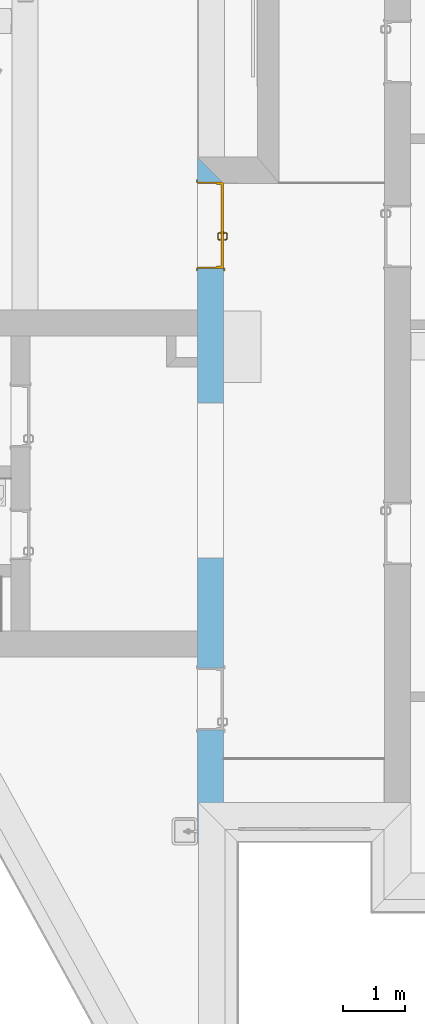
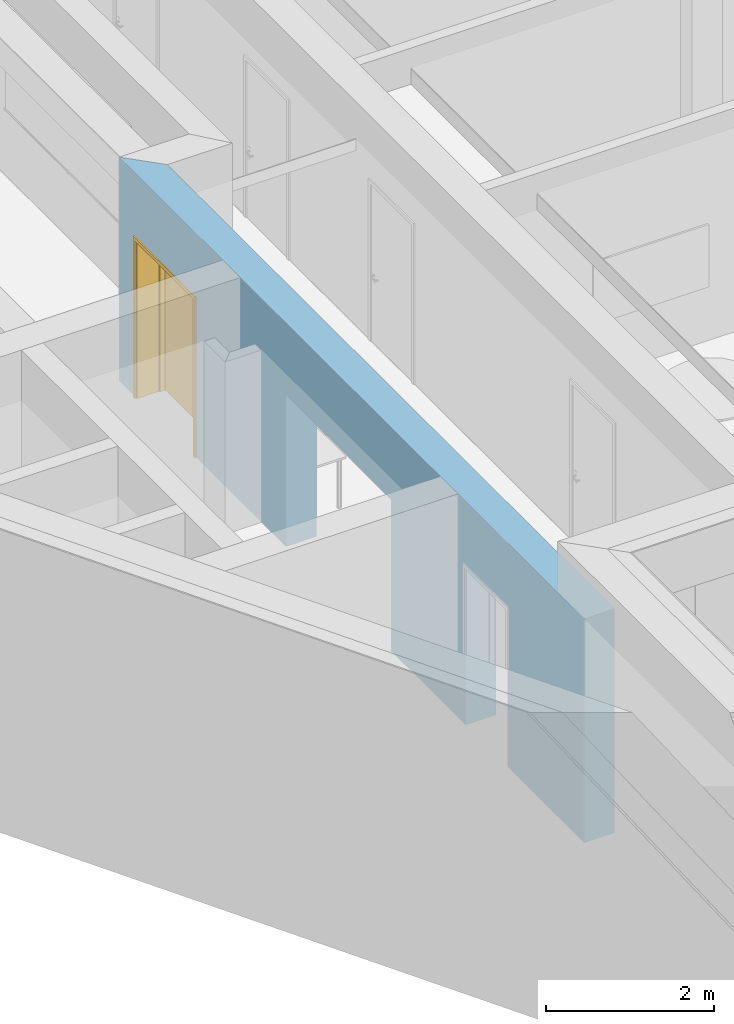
# One storey, part 50 of 194: 1 door, 3 openings, plus 1 element that does not belong to this part.
"""IFC2X3 building model written with IfcOpenShell, lengths in millimetres."""

import ifcopenshell
import ifcopenshell.guid

model = None  # the IFC model being written
_history = None  # IfcOwnerHistory: only IFC2X3 demands one
_inside = {}  # id of a spatial element -> (the spatial element, [elements in it])
_under = {}  # id of a project, library or spatial element -> (it, [spatial elements below it])
_declared = {}  # id of a project -> (the project, [libraries it declares])
_typed = {}  # id of a type object -> (the type object, [elements of that type])
_made_of = {}  # id of a material, layer set ... -> (it, [elements and type objects made of it])


def new_model(schema):
    """Start an empty IFC model of exactly this schema.

    Asked for "IFC4X3", IfcOpenShell would pick the latest addendum, in which some entities
    have other attributes; the version numbers below select the first issue.
    IFC2X3 requires an IfcOwnerHistory on every rooted entity: one is made here for all.
    """
    global model, _history
    if schema == "IFC4X3":
        model = ifcopenshell.file(schema_version=(4, 3, 0, 0))
    else:
        model = ifcopenshell.file(schema=schema)
    _inside.clear()
    _under.clear()
    _declared.clear()
    _typed.clear()
    _made_of.clear()
    _history = None
    if model.schema == "IFC2X3":
        org = make("IfcOrganization", Name="unknown")
        user = make(
            "IfcPersonAndOrganization",
            ThePerson=make("IfcPerson", FamilyName="unknown"),
            TheOrganization=org,
        )
        app = make(
            "IfcApplication",
            ApplicationDeveloper=org,
            Version="unknown",
            ApplicationFullName="unknown",
            ApplicationIdentifier="unknown",
        )
        _history = make(
            "IfcOwnerHistory",
            OwningUser=user,
            OwningApplication=app,
            ChangeAction="ADDED",
            CreationDate=0,
        )
    return model


def make(cls, **values):
    """One entity of the class cls with the attributes given. An attribute that is None is left unset."""
    return model.create_entity(
        cls, **{name: value for name, value in values.items() if value is not None}
    )


def entity(cls, *values):
    """Any entity or typed value of the class cls, its attributes in the order of the schema. None: left unset."""
    e = model.create_entity(cls)
    for i, value in enumerate(values):
        if value is not None:
            e[i] = value
    return e


def rooted(cls, **values):
    """An entity with a GlobalId (a new one), such as an element, a storey or a relation."""
    return make(cls, GlobalId=ifcopenshell.guid.new(), OwnerHistory=_history, **values)


def si_unit(unit_type, name, prefix=None):
    """IfcSIUnit, for example si_unit("LENGTHUNIT", "METRE", prefix="MILLI")."""
    return make("IfcSIUnit", UnitType=unit_type, Prefix=prefix, Name=name)


def converted_unit(unit_type, name, factor, base, dimensions=None, offset=None):
    """IfcConversionBasedUnit, such as the inch: factor (a typed value) times the base unit."""
    return make(
        "IfcConversionBasedUnit"
        if offset is None
        else "IfcConversionBasedUnitWithOffset",
        ConversionOffset=offset,
        Dimensions=None
        if dimensions is None
        else entity("IfcDimensionalExponents", *dimensions),
        UnitType=unit_type,
        Name=name,
        ConversionFactor=make(
            "IfcMeasureWithUnit", ValueComponent=factor, UnitComponent=base
        ),
    )


def derived_unit(unit_type, elements):
    """IfcDerivedUnit: a product of units, each with its exponent."""
    return make(
        "IfcDerivedUnit",
        Elements=[
            make("IfcDerivedUnitElement", Unit=unit, Exponent=power)
            for unit, power in elements
        ],
        UnitType=unit_type,
    )


def money_unit(currency):
    """IfcMonetaryUnit."""
    return make("IfcMonetaryUnit", Currency=currency)


def assignment(units):
    """IfcUnitAssignment: the units of a project."""
    return None if units is None else make("IfcUnitAssignment", Units=units)


def point(xyz):
    """IfcCartesianPoint."""
    return None if xyz is None else make("IfcCartesianPoint", Coordinates=xyz)


def direction(xyz):
    """IfcDirection."""
    return None if xyz is None else make("IfcDirection", DirectionRatios=xyz)


def frame(location, z_axis=None, x_axis=None):
    """IfcAxis2Placement3D, a coordinate frame: its origin and axes. An axis left out is left unset."""
    return make(
        "IfcAxis2Placement3D",
        Location=point(location),
        Axis=direction(z_axis),
        RefDirection=direction(x_axis),
    )


def frame_2d(location, x_axis=None):
    """IfcAxis2Placement2D, a coordinate frame in the plane: its origin and x axis."""
    return make(
        "IfcAxis2Placement2D", Location=point(location), RefDirection=direction(x_axis)
    )


def origin_with_axes():
    """The frame at (0, 0, 0) with the z axis (0, 0, 1) and the x axis (1, 0, 0) written out."""
    return frame((0.0, 0.0, 0.0), z_axis=(0.0, 0.0, 1.0), x_axis=(1.0, 0.0, 0.0))


def origin_2d_with_axis():
    """The frame at (0, 0) in the plane with the x axis (1, 0) written out."""
    return frame_2d((0.0, 0.0), x_axis=(1.0, 0.0))


def place(relative_to, where):
    """IfcLocalPlacement: puts the frame where relative to a parent placement (None: the world)."""
    return make(
        "IfcLocalPlacement", PlacementRelTo=relative_to, RelativePlacement=where
    )


def context(
    kind, dimensions, precision=None, world=None, true_north=None, identifier=None
):
    """IfcGeometricRepresentationContext, for example the 3D "Model" context."""
    return make(
        "IfcGeometricRepresentationContext",
        ContextIdentifier=identifier,
        ContextType=kind,
        CoordinateSpaceDimension=dimensions,
        Precision=precision,
        WorldCoordinateSystem=world,
        TrueNorth=true_north,
    )


def subcontext(parent, identifier, kind, view, scale=None):
    """IfcGeometricRepresentationSubContext, for example "Body" below "Model"."""
    return make(
        "IfcGeometricRepresentationSubContext",
        ContextIdentifier=identifier,
        ContextType=kind,
        ParentContext=parent,
        TargetScale=scale,
        TargetView=view,
    )


def project(units=None, contexts=None):
    """IfcProject with its units and contexts."""
    return rooted(
        "IfcProject",
        Name="project",
        RepresentationContexts=contexts,
        UnitsInContext=assignment(units),
    )


def spatial(cls, under=None, at=None, **own):
    """A site, building, storey or space (cls), placed at a placement, below another one or the project."""
    s = rooted(cls, ObjectPlacement=at, **own)
    if under is not None:
        _under.setdefault(under.id(), (under, []))[1].append(s)
    return s


def polyline(points):
    """IfcPolyline through the points."""
    return make("IfcPolyline", Points=[point(p) for p in points])


def profile(cls, at=None, kind="AREA", **sizes):
    """A parametric profile (cls). Its sizes go by their IFC names, for example OverallWidth=200.0."""
    return make(cls, ProfileType=kind, Position=at, **sizes)


def rectangle(**sizes):
    """IfcRectangleProfileDef."""
    return profile("IfcRectangleProfileDef", **sizes)


def outline(outer, holes=None, kind="AREA"):
    """IfcArbitraryClosedProfileDef: a profile drawn as a closed curve; with holes, ...WithVoids."""
    if holes is None:
        return make("IfcArbitraryClosedProfileDef", ProfileType=kind, OuterCurve=outer)
    return make(
        "IfcArbitraryProfileDefWithVoids",
        ProfileType=kind,
        OuterCurve=outer,
        InnerCurves=holes,
    )


def extrude(swept, where, along, depth):
    """IfcExtrudedAreaSolid: the profile swept, set in the frame where, extruded along a direction by depth."""
    return make(
        "IfcExtrudedAreaSolid",
        SweptArea=swept,
        Position=where,
        ExtrudedDirection=direction(along),
        Depth=depth,
    )


def faces_of(points, faces, orient=None, outer=None):
    """IfcFace entities. A face is a list of loops; a loop is a list of indices into points, from 0.

    orient and outer hold one flag for each loop. By default every Orientation is true, the
    first loop of a face is its IfcFaceOuterBound and the others are IfcFaceBound.
    """
    made = []
    for i, loops in enumerate(faces):
        bounds = []
        for j, loop in enumerate(loops):
            is_outer = j == 0 if outer is None else outer[i][j]
            bounds.append(
                make(
                    "IfcFaceOuterBound" if is_outer else "IfcFaceBound",
                    Bound=make("IfcPolyLoop", Polygon=[points[k] for k in loop]),
                    Orientation=True if orient is None else orient[i][j],
                )
            )
        made.append(make("IfcFace", Bounds=bounds))
    return made


def open_shell(faces, orient=None, outer=None):
    """The faces of one IfcOpenShell. surface_model builds it on its shared points."""
    return ("IfcOpenShell", faces, orient, outer)


def faceted_brep(points, faces, orient=None, outer=None, voids=None):
    """IfcFacetedBrep: a solid bounded by flat faces; with voids (closed shells), ...WithVoids."""
    shared = [point(p) for p in points]
    hull = make("IfcClosedShell", CfsFaces=faces_of(shared, faces, orient, outer))
    if voids is None:
        return make("IfcFacetedBrep", Outer=hull)
    return make(
        "IfcFacetedBrepWithVoids",
        Outer=hull,
        Voids=[
            make(cls, CfsFaces=faces_of(shared, fs, o, b)) for cls, fs, o, b in voids
        ],
    )


def surface_model(cls, points, shells):
    """IfcFaceBasedSurfaceModel or IfcShellBasedSurfaceModel (cls): surfaces that need not close."""
    shared = [point(p) for p in points]
    made = [make(c, CfsFaces=faces_of(shared, fs, o, b)) for c, fs, o, b in shells]
    if cls == "IfcFaceBasedSurfaceModel":
        return make(cls, FbsmFaces=made)
    return make(cls, SbsmBoundary=made)


def shape(context_of_items, identifier, shape_type, items):
    """IfcShapeRepresentation: the items that make up one representation, for example the "Body"."""
    return make(
        "IfcShapeRepresentation",
        ContextOfItems=context_of_items,
        RepresentationIdentifier=identifier,
        RepresentationType=shape_type,
        Items=items,
    )


def material(Name=None, Category=None):
    """IfcMaterial."""
    return make("IfcMaterial", Name=Name, Category=Category)


def layer(
    of_material, thickness, ventilated=None, Name=None, Category=None, Priority=None
):
    """IfcMaterialLayer: one layer of a wall or slab, of a material (None: an air gap)."""
    return make(
        "IfcMaterialLayer",
        Material=of_material,
        LayerThickness=thickness,
        IsVentilated=ventilated,
        Name=Name,
        Category=Category,
        Priority=Priority,
    )


def layer_set(layers, Name=None):
    """IfcMaterialLayerSet."""
    return make("IfcMaterialLayerSet", MaterialLayers=layers, LayerSetName=Name)


def layer_usage(for_layer_set, set_direction, sense, offset, extent=None):
    """IfcMaterialLayerSetUsage: how a layer set lies in its element."""
    return make(
        "IfcMaterialLayerSetUsage",
        ForLayerSet=for_layer_set,
        LayerSetDirection=set_direction,
        DirectionSense=sense,
        OffsetFromReferenceLine=offset,
        ReferenceExtent=extent,
    )


def made_of(thing, what):
    """Note that an element or type object is made of a material, layer set ...; save() writes the relation."""
    if what is not None:
        _made_of.setdefault(what.id(), (what, []))[1].append(thing)
    return thing


def type_object(cls, material=None, **own):
    """A type object (cls), such as IfcWallType, which elements share."""
    return made_of(rooted(cls, **own), material)


def element(
    cls,
    number,
    at=None,
    inside=None,
    cuts=None,
    type_object=None,
    material=None,
    context=None,
    identifier="Body",
    shape_type=None,
    held_by="IfcProductDefinitionShape",
    body=None,
    shapes=None,
    **own,
):
    """One element of the class cls, such as IfcWall. Its Tag is "e" and its number.

    at: its placement. inside: the storey or other place that contains it. cuts: it is an
    opening in that element (IfcRelVoidsElement). A single representation is given by context,
    identifier, shape_type and body (its items); several are given by shapes. held_by: the class
    of the entity that holds the representations. save() writes the other relations.
    """
    e = rooted(cls, Tag="e%d" % number, ObjectPlacement=at, **own)
    if body is not None:
        shapes = [shape(context, identifier, shape_type, body)]
    if shapes is not None:
        e.Representation = make(held_by, Representations=shapes)
    if inside is not None:
        _inside.setdefault(inside.id(), (inside, []))[1].append(e)
    if cuts is not None:
        rooted(
            "IfcRelVoidsElement", RelatingBuildingElement=cuts, RelatedOpeningElement=e
        )
    if type_object is not None:
        _typed.setdefault(type_object.id(), (type_object, []))[1].append(e)
    return made_of(e, material)


def fill(opening, filler):
    """IfcRelFillsElement: the door or window that sits in an opening."""
    return rooted(
        "IfcRelFillsElement",
        RelatingOpeningElement=opening,
        RelatedBuildingElement=filler,
    )


def aggregate(whole, parts):
    """IfcRelAggregates: a whole, such as a stair, and the parts it consists of."""
    return rooted("IfcRelAggregates", RelatingObject=whole, RelatedObjects=parts)


def save(model, path):
    """Write the relations noted so far, then the file.

    IfcRelAggregates (storeys below a building ...), IfcRelContainedInSpatialStructure (elements
    in a storey), IfcRelDefinesByType, IfcRelAssociatesMaterial and IfcRelDeclares: one each for
    every whole, place, type object, material and project.
    """
    for whole, parts in _under.values():
        aggregate(whole, parts)
    for where, things in _inside.values():
        rooted(
            "IfcRelContainedInSpatialStructure",
            RelatedElements=things,
            RelatingStructure=where,
        )
    for kind, things in _typed.values():
        rooted("IfcRelDefinesByType", RelatedObjects=things, RelatingType=kind)
    for what, things in _made_of.values():
        rooted("IfcRelAssociatesMaterial", RelatedObjects=things, RelatingMaterial=what)
    for by, libraries in _declared.values():
        rooted("IfcRelDeclares", RelatingContext=by, RelatedDefinitions=libraries)
    model.write(path)


model = new_model("IFC2X3")

# Units and contexts
model_context = context("Model", 3, precision=1e-05, world=origin_with_axes(), true_north=direction((0.0, 1.0)))
body_context = subcontext(model_context, "Body", "Model", "MODEL_VIEW")
ifc_project = project(units=[si_unit("LENGTHUNIT", "METRE", prefix="MILLI"), si_unit("AREAUNIT", "SQUARE_METRE"), si_unit("VOLUMEUNIT", "CUBIC_METRE"), converted_unit("PLANEANGLEUNIT", "DEGREE", entity("IfcPlaneAngleMeasure", 0.0174532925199), si_unit("PLANEANGLEUNIT", "RADIAN"), dimensions=[0, 0, 0, 0, 0, 0, 0]), si_unit("SOLIDANGLEUNIT", "STERADIAN"), money_unit("EUR"), converted_unit("TIMEUNIT", "Year", entity("IfcTimeMeasure", 31556926.0), si_unit("TIMEUNIT", "SECOND"), dimensions=[0, 0, 1, 0, 0, 0, 0]), si_unit("MASSUNIT", "GRAM", prefix="KILO"), si_unit("THERMODYNAMICTEMPERATUREUNIT", "DEGREE_CELSIUS"), si_unit("LUMINOUSINTENSITYUNIT", "LUMEN"), si_unit("ENERGYUNIT", "JOULE", prefix="MEGA"), derived_unit("THERMALCONDUCTANCEUNIT", [(si_unit("POWERUNIT", "WATT"), 1), (si_unit("LENGTHUNIT", "METRE"), -1), (si_unit("THERMODYNAMICTEMPERATUREUNIT", "KELVIN"), -1)]), derived_unit("SPECIFICHEATCAPACITYUNIT", [(si_unit("ENERGYUNIT", "JOULE"), 1), (si_unit("MASSUNIT", "GRAM", prefix="KILO"), -1), (si_unit("THERMODYNAMICTEMPERATUREUNIT", "KELVIN"), -1)]), derived_unit("MASSDENSITYUNIT", [(si_unit("MASSUNIT", "GRAM", prefix="KILO"), 1), (si_unit("VOLUMEUNIT", "CUBIC_METRE"), -1)])], contexts=[model_context])

# Site, building, storey
site_placement = place(None, origin_with_axes())
site = spatial("IfcSite", under=ifc_project, at=site_placement, Name="Site", CompositionType="ELEMENT")
building_placement = place(site_placement, origin_with_axes())
building = spatial("IfcBuilding", under=site, at=building_placement, Name="Building", CompositionType="ELEMENT")
storey_placement = place(building_placement, frame((0.0, 0.0, 3000.0), z_axis=(0.0, 0.0, 1.0), x_axis=(1.0, 0.0, 0.0)))
storey = spatial("IfcBuildingStorey", under=building, at=storey_placement, Name="2 KORRUS", CompositionType="ELEMENT", Elevation=3000.0)

# Wall, openings, door
ifc_material = material(Name="Kivi -Ol.Olev Konstruktsioon")
ifc_layer = layer(ifc_material, 420.0, ventilated="UNKNOWN")
ifc_layer_set = layer_set([ifc_layer], Name="ol.olev ss 420")
ifc_layer_usage = layer_usage(ifc_layer_set, "AXIS2", "POSITIVE", 0.0)
wall_type = type_object("IfcWallType", Name="SW - 023", PredefinedType="NOTDEFINED")
wall_placement = place(storey_placement, frame((37144.8833089, 5307.76650233, 0.0), z_axis=(0.0, 0.0, 1.0), x_axis=(0.0, 1.0, 0.0)))
wall = element("IfcWallStandardCase", 1, at=wall_placement, inside=storey, type_object=wall_type, material=ifc_layer_usage, Name="ol.olev ss 420", context=body_context, shape_type="SweptSolid", body=[
    extrude(outline(polyline([(0.0, 0.0), (10639.2321856, 0.0), (11059.9335517, 420.0), (0.0, 420.0), (0.0, 0.0)])), origin_with_axes(), (0.0, 0.0, 1.0), 3250.0),
])
opening_1_placement = place(wall_placement, frame((2319.67010377, 0.0, 0.0), z_axis=(0.0, 0.0, 1.0), x_axis=(1.0, 0.0, 0.0)))
element("IfcOpeningElement", 2, at=opening_1_placement, cuts=wall, Name="Siseuks * Door 22", context=body_context, shape_type="SweptSolid", body=[
    extrude(rectangle(XDim=1000.0, YDim=2300.0, at=origin_2d_with_axis()), frame((0.0, 420.0, 1150.0), z_axis=(0.0, 1.0, 0.0), x_axis=(1.0, 0.0, 0.0)), (0.0, 0.0, -1.0), 1260.0),
    extrude(rectangle(XDim=1074.0, YDim=2337.0, at=origin_2d_with_axis()), frame((0.0, 420.0, 1168.5), z_axis=(0.0, 1.0, 0.0), x_axis=(1.0, 0.0, 0.0)), (0.0, 0.0, 1.0), 420.0),
    extrude(rectangle(XDim=1074.0, YDim=2337.0, at=origin_2d_with_axis()), frame((0.0, 0.0, 1168.5), z_axis=(0.0, -1.0, 0.0), x_axis=(1.0, 0.0, 0.0)), (0.0, 0.0, 1.0), 420.0),
])
opening_2_placement = place(wall_placement, frame((9960.45850572, 0.0, 0.0), z_axis=(0.0, 0.0, 1.0), x_axis=(1.0, 0.0, 0.0)))
opening_2 = element("IfcOpeningElement", 3, at=opening_2_placement, cuts=wall, Name="Saali uks * Double Door 22", context=body_context, shape_type="SweptSolid", body=[
    extrude(rectangle(XDim=1400.0, YDim=2300.0, at=origin_2d_with_axis()), frame((0.0, 420.0, 1150.0), z_axis=(0.0, -1.0, 0.0), x_axis=(-1.0, 0.0, 0.0)), (0.0, 0.0, 1.0), 1260.0),
    extrude(rectangle(XDim=1474.0, YDim=2337.0, at=origin_2d_with_axis()), frame((0.0, 420.0, 1168.5), z_axis=(0.0, -1.0, 0.0), x_axis=(-1.0, 0.0, 0.0)), (0.0, 0.0, -1.0), 420.0),
    extrude(rectangle(XDim=1474.0, YDim=2337.0, at=origin_2d_with_axis()), frame((0.0, 0.0, 1168.5), z_axis=(0.0, 1.0, 0.0), x_axis=(-1.0, 0.0, 0.0)), (0.0, 0.0, -1.0), 420.0),
])
opening_3_placement = place(wall_placement, frame((5840.80387855, 0.0, 0.0), z_axis=(0.0, 0.0, 1.0), x_axis=(1.0, 0.0, 0.0)))
element("IfcOpeningElement", 4, at=opening_3_placement, cuts=wall, Name="Background;  Objekti nimi: Simple Door Opening", context=body_context, shape_type="SweptSolid", body=[
    extrude(rectangle(XDim=2380.0, YDim=2140.0, at=origin_2d_with_axis()), frame((0.0, 0.0, 1070.0), z_axis=(0.0, 1.0, 0.0), x_axis=(1.0, 0.0, 0.0)), (0.0, 0.0, -1.0), 420.0),
    extrude(rectangle(XDim=2500.0, YDim=2200.0, at=origin_2d_with_axis()), frame((0.0, 0.0, 1100.0), z_axis=(0.0, -1.0, 0.0), x_axis=(1.0, 0.0, 0.0)), (0.0, 0.0, -1.0), 420.0),
])
door_style = type_object("IfcDoorStyle", Name="SU-C206   1\xa0400×2\xa0300", ConstructionType="NOTDEFINED", OperationType="DOUBLE_DOOR_SINGLE_SWING", ParameterTakesPrecedence=False, Sizeable=False)
door_placement = place(opening_2_placement, frame((700.0, 0.0, 0.0), z_axis=(0.0, 0.0, 1.0), x_axis=(-1.0, 0.0, 0.0)))
door = element("IfcDoor", 5, at=door_placement, inside=storey, type_object=door_style, Name="Saali uks * Double Door 22", OverallHeight=2300.0, OverallWidth=1400.0, context=body_context, shape_type="SurfaceModel", body=[
    faceted_brep([(0.0, -115.0, 0.0), (24.9999999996, -115.0, 0.0), (24.9999999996, -420.0, 0.0), (0.0, -420.0, 0.0), (0.0, -115.0, 2300.0), (24.9999999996, -115.0, 2275.0), (24.9999999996, -420.0, 2275.0), (0.0, -420.0, 2300.0)], [[[0, 1, 2, 3]], [[0, 4, 5, 1]], [[1, 5, 6, 2]], [[3, 2, 6, 7]], [[4, 0, 3, 7]], [[5, 4, 7, 6]]]),
    faceted_brep([(1400.0, -115.0, 2300.0), (1375.0, -115.0, 2275.0), (1375.0, -420.0, 2275.0), (1400.0, -420.0, 2300.0), (1400.0, -115.0, 0.0), (1375.0, -115.0, 0.0), (1375.0, -420.0, 0.0), (1400.0, -420.0, 0.0)], [[[0, 1, 2, 3]], [[0, 4, 5, 1]], [[1, 5, 6, 2]], [[3, 2, 6, 7]], [[4, 0, 3, 7]], [[5, 4, 7, 6]]]),
    faceted_brep([(24.9999999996, -115.0, 2275.0), (1375.0, -115.0, 2275.0), (1375.0, -420.0, 2275.0), (24.9999999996, -420.0, 2275.0), (0.0, -115.0, 2300.0), (1400.0, -115.0, 2300.0), (1400.0, -420.0, 2300.0), (0.0, -420.0, 2300.0)], [[[0, 1, 2, 3]], [[0, 4, 5, 1]], [[1, 5, 6, 2]], [[3, 2, 6, 7]], [[4, 0, 3, 7]], [[5, 4, 7, 6]]]),
    faceted_brep([(-37.0000000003, -439.0, 0.0), (-37.0000000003, -420.0, 0.0), (12.9999999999, -420.0, 0.0), (12.9999999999, -439.0, 0.0), (-37.0000000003, -439.0, 2337.0), (-37.0000000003, -420.0, 2337.0), (12.9999999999, -420.0, 2287.0), (12.9999999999, -439.0, 2287.0)], [[[0, 1, 2, 3]], [[4, 5, 1, 0]], [[1, 5, 6, 2]], [[3, 2, 6, 7]], [[0, 3, 7, 4]], [[7, 6, 5, 4]]]),
    faceted_brep([(1437.0, -439.0, 2337.0), (1437.0, -420.0, 2337.0), (1387.0, -420.0, 2287.0), (1387.0, -439.0, 2287.0), (1437.0, -439.0, 0.0), (1437.0, -420.0, 0.0), (1387.0, -420.0, 0.0), (1387.0, -439.0, 0.0)], [[[0, 1, 2, 3]], [[4, 5, 1, 0]], [[1, 5, 6, 2]], [[3, 2, 6, 7]], [[0, 3, 7, 4]], [[7, 6, 5, 4]]]),
    faceted_brep([(-37.0000000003, -439.0, 2337.0), (-37.0000000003, -420.0, 2337.0), (12.9999999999, -420.0, 2287.0), (12.9999999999, -439.0, 2287.0), (1437.0, -439.0, 2337.0), (1437.0, -420.0, 2337.0), (1387.0, -420.0, 2287.0), (1387.0, -439.0, 2287.0)], [[[0, 1, 2, 3]], [[4, 5, 1, 0]], [[1, 5, 6, 2]], [[3, 2, 6, 7]], [[0, 3, 7, 4]], [[7, 6, 5, 4]]]),
    faceted_brep([(-37.0000000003, 19.0, 0.0), (12.9999999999, 19.0, 0.0), (12.9999999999, 0.0, 0.0), (-37.0000000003, 0.0, 0.0), (-37.0000000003, 19.0, 2337.0), (12.9999999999, 19.0, 2287.0), (12.9999999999, 0.0, 2287.0), (-37.0000000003, 0.0, 2337.0)], [[[0, 1, 2, 3]], [[0, 4, 5, 1]], [[1, 5, 6, 2]], [[3, 2, 6, 7]], [[4, 0, 3, 7]], [[5, 4, 7, 6]]]),
    faceted_brep([(1437.0, 19.0, 2337.0), (1387.0, 19.0, 2287.0), (1387.0, 0.0, 2287.0), (1437.0, 0.0, 2337.0), (1437.0, 19.0, 0.0), (1387.0, 19.0, 0.0), (1387.0, 0.0, 0.0), (1437.0, 0.0, 0.0)], [[[0, 1, 2, 3]], [[0, 4, 5, 1]], [[1, 5, 6, 2]], [[3, 2, 6, 7]], [[4, 0, 3, 7]], [[5, 4, 7, 6]]]),
    faceted_brep([(-37.0000000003, 19.0, 2337.0), (12.9999999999, 19.0, 2287.0), (12.9999999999, 0.0, 2287.0), (-37.0000000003, 0.0, 2337.0), (1437.0, 19.0, 2337.0), (1387.0, 19.0, 2287.0), (1387.0, 0.0, 2287.0), (1437.0, 0.0, 2337.0)], [[[0, 1, 2, 3]], [[0, 4, 5, 1]], [[1, 5, 6, 2]], [[3, 2, 6, 7]], [[4, 0, 3, 7]], [[5, 4, 7, 6]]]),
    faceted_brep([(40.0, -40.0, 0.0), (40.0, -40.0, 2260.0), (40.0, -115.0, 2260.0), (40.0, -115.0, 0.0), (28.0000000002, -40.0, 2260.0), (28.0000000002, -40.0, 0.0), (28.0000000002, 0.0, 2260.0), (0.0, 0.0, 2260.0), (0.0, -115.0, 2260.0), (0.0, -115.0, 0.0), (0.0, 0.0, 0.0), (28.0000000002, 0.0, 0.0)], [[[0, 1, 2, 3]], [[4, 1, 0, 5]], [[4, 6, 7, 8, 2, 1]], [[3, 2, 8, 9]], [[5, 0, 3, 9, 10, 11]], [[6, 4, 5, 11]], [[6, 11, 10, 7]], [[10, 9, 8, 7]]]),
    faceted_brep([(1372.0, -40.0, 2260.0), (1360.0, -40.0, 2260.0), (1360.0, -115.0, 2260.0), (1400.0, -115.0, 2260.0), (1400.0, 0.0, 2260.0), (1372.0, 0.0, 2260.0), (1372.0, -40.0, 0.0), (1360.0, -40.0, 0.0), (1360.0, -115.0, 0.0), (1400.0, -115.0, 0.0), (1400.0, 0.0, 0.0), (1372.0, 0.0, 0.0)], [[[0, 1, 2, 3, 4, 5]], [[1, 0, 6, 7]], [[1, 7, 8, 2]], [[3, 2, 8, 9]], [[4, 3, 9, 10]], [[11, 5, 4, 10]], [[0, 5, 11, 6]], [[6, 11, 10, 9, 8, 7]]]),
    faceted_brep([(28.0000000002, 0.0, 2272.0), (28.0000000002, 0.0, 2260.0), (0.0, 0.0, 2260.0), (0.0, 0.0, 2300.0), (1400.0, 0.0, 2300.0), (1400.0, 0.0, 2260.0), (1372.0, 0.0, 2260.0), (1372.0, 0.0, 2272.0), (28.0000000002, -40.0, 2272.0), (28.0000000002, -40.0, 2260.0), (40.0, -40.0, 2260.0), (40.0, -115.0, 2260.0), (0.0, -115.0, 2260.0), (0.0, -115.0, 2300.0), (1400.0, -115.0, 2300.0), (1400.0, -115.0, 2260.0), (1372.0, -40.0, 2260.0), (1360.0, -115.0, 2260.0), (1360.0, -40.0, 2260.0), (1372.0, -40.0, 2272.0)], [[[0, 1, 2, 3, 4, 5, 6, 7]], [[1, 0, 8, 9]], [[9, 10, 11, 12, 2, 1]], [[2, 12, 13, 3]], [[3, 13, 14, 4]], [[4, 14, 15, 5]], [[16, 6, 5, 15, 17, 18]], [[7, 6, 16, 19]], [[0, 7, 19, 8]], [[16, 18, 10, 9, 8, 19]], [[10, 18, 17, 11]], [[17, 15, 14, 13, 12, 11]]]),
    faceted_brep([(793.5, -40.0, 1060.0), (793.5, -43.0, 1060.0), (850.5, -43.0, 1060.0), (850.5, -40.0, 1060.0), (793.5, -40.0, 870.0), (793.5, -43.0, 870.0), (850.5, -43.0, 870.0), (850.5, -40.0, 870.0)], [[[0, 1, 2, 3]], [[4, 5, 1, 0]], [[1, 5, 6, 2]], [[3, 2, 6, 7]], [[0, 3, 7, 4]], [[7, 6, 5, 4]]]),
    surface_model("IfcShellBasedSurfaceModel", [(831.999999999, -53.0, 1000.0), (831.999999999, -72.0150859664, 1000.0), (829.071067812, -72.303560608, 992.928932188), (829.071067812, -53.0, 992.928932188), (829.071067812, -53.0, 1007.07106781), (829.071067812, -72.303560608, 1007.07106781), (832.942203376, -76.7518622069, 1000.0), (830.183209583, -77.8946748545, 992.928932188), (822.0, -73.0, 990.0), (822.0, -53.0, 990.0), (822.0, -53.0, 1010.0), (822.0, -73.0, 1010.0), (830.183209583, -77.8946748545, 1007.07106781), (835.067462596, -79.9325374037, 1000.0), (832.955820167, -82.0441798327, 992.928932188), (823.52240935, -80.6536686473, 990.0), (814.928932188, -73.6964393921, 992.928932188), (814.928932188, -53.0, 992.928932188), (814.928932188, -53.0, 1007.07106781), (814.928932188, -73.6964393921, 1007.07106781), (823.52240935, -80.6536686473, 1010.0), (832.955820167, -82.0441798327, 1007.07106781), (838.248137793, -82.0577966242, 1000.0), (837.105325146, -84.8167904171, 992.928932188), (827.857864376, -87.1421356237, 990.0), (816.861609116, -83.4126624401, 992.928932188), (812.0, -73.9849140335, 1000.0), (812.0, -53.0, 1000.0), (816.861609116, -83.4126624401, 1007.07106781), (827.857864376, -87.1421356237, 1010.0), (837.105325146, -84.8167904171, 1007.07106781), (842.984914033, -83.0, 1000.0), (842.696439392, -85.9289321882, 992.928932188), (834.346331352, -91.4775906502, 990.0), (822.759908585, -92.2400914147, 992.928932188), (814.102615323, -84.5554750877, 1000.0), (822.759908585, -92.2400914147, 1007.07106781), (834.346331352, -91.4775906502, 1010.0), (842.696439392, -85.9289321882, 1007.07106781), (911.015085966, -83.0, 1000.0), (911.303560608, -85.9289321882, 992.928932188), (842.0, -93.0, 990.0), (831.58733756, -98.1383908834, 992.928932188), (820.648266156, -94.3517338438, 1000.0), (831.58733756, -98.1383908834, 1007.07106781), (842.0, -93.0, 1010.0), (911.303560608, -85.9289321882, 1007.07106781), (915.751862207, -82.0577966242, 1000.0), (916.894674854, -84.8167904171, 992.928932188), (912.0, -93.0, 990.0), (841.303560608, -100.071067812, 992.928932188), (830.444524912, -100.897384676, 1000.0), (841.303560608, -100.071067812, 1007.07106781), (912.0, -93.0, 1010.0), (916.894674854, -84.8167904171, 1007.07106781), (918.932537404, -79.9325374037, 1000.0), (921.044179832, -82.0441798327, 992.928932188), (919.653668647, -91.4775906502, 990.0), (912.696439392, -100.071067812, 992.928932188), (841.015085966, -103.0, 1000.0), (912.696439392, -100.071067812, 1007.07106781), (919.653668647, -91.4775906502, 1010.0), (921.044179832, -82.0441798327, 1007.07106781), (921.057796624, -76.7518622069, 1000.0), (923.816790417, -77.8946748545, 992.928932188), (926.142135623, -87.1421356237, 990.0), (922.41266244, -98.1383908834, 992.928932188), (912.984914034, -103.0, 1000.0), (922.41266244, -98.1383908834, 1007.07106781), (926.142135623, -87.1421356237, 1010.0), (923.816790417, -77.8946748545, 1007.07106781), (922.0, -72.0150859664, 1000.0), (924.928932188, -72.303560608, 992.928932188), (930.47759065, -80.6536686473, 990.0), (931.240091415, -92.2400914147, 992.928932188), (923.555475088, -100.897384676, 1000.0), (931.240091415, -92.2400914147, 1007.07106781), (930.47759065, -80.6536686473, 1010.0), (924.928932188, -72.303560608, 1007.07106781), (922.0, -53.0, 1000.0), (924.928932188, -53.0, 992.928932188), (932.0, -73.0, 990.0), (937.138390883, -83.4126624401, 992.928932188), (933.351733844, -94.3517338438, 1000.0), (937.138390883, -83.4126624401, 1007.07106781), (932.0, -73.0, 1010.0), (924.928932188, -53.0, 1007.07106781), (932.0, -53.0, 1010.0), (939.071067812, -53.0, 1007.07106781), (942.0, -53.0, 1000.0), (939.071067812, -53.0, 992.928932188), (932.0, -53.0, 990.0), (939.071067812, -73.6964393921, 992.928932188), (939.897384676, -84.5554750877, 1000.0), (939.071067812, -73.6964393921, 1007.07106781), (942.0, -73.9849140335, 1000.0)], [open_shell([[[0, 1, 2, 3]], [[4, 5, 1, 0]], [[1, 6, 7, 2]], [[3, 2, 8, 9]], [[10, 11, 5, 4]], [[5, 12, 6, 1]], [[6, 13, 14, 7]], [[2, 7, 15, 8]], [[9, 8, 16, 17]], [[18, 19, 11, 10]], [[11, 20, 12, 5]], [[12, 21, 13, 6]], [[13, 22, 23, 14]], [[7, 14, 24, 15]], [[8, 15, 25, 16]], [[17, 16, 26, 27]], [[27, 26, 19, 18]], [[19, 28, 20, 11]], [[20, 29, 21, 12]], [[21, 30, 22, 13]], [[22, 31, 32, 23]], [[14, 23, 33, 24]], [[15, 24, 34, 25]], [[16, 25, 35, 26]], [[26, 35, 28, 19]], [[28, 36, 29, 20]], [[29, 37, 30, 21]], [[30, 38, 31, 22]], [[31, 39, 40, 32]], [[23, 32, 41, 33]], [[24, 33, 42, 34]], [[25, 34, 43, 35]], [[35, 43, 36, 28]], [[36, 44, 37, 29]], [[37, 45, 38, 30]], [[38, 46, 39, 31]], [[39, 47, 48, 40]], [[32, 40, 49, 41]], [[33, 41, 50, 42]], [[34, 42, 51, 43]], [[43, 51, 44, 36]], [[44, 52, 45, 37]], [[45, 53, 46, 38]], [[46, 54, 47, 39]], [[47, 55, 56, 48]], [[40, 48, 57, 49]], [[41, 49, 58, 50]], [[42, 50, 59, 51]], [[51, 59, 52, 44]], [[52, 60, 53, 45]], [[53, 61, 54, 46]], [[54, 62, 55, 47]], [[55, 63, 64, 56]], [[48, 56, 65, 57]], [[49, 57, 66, 58]], [[50, 58, 67, 59]], [[59, 67, 60, 52]], [[60, 68, 61, 53]], [[61, 69, 62, 54]], [[62, 70, 63, 55]], [[63, 71, 72, 64]], [[56, 64, 73, 65]], [[57, 65, 74, 66]], [[58, 66, 75, 67]], [[67, 75, 68, 60]], [[68, 76, 69, 61]], [[69, 77, 70, 62]], [[70, 78, 71, 63]], [[71, 79, 80, 72]], [[64, 72, 81, 73]], [[65, 73, 82, 74]], [[66, 74, 83, 75]], [[75, 83, 76, 68]], [[76, 84, 77, 69]], [[77, 85, 78, 70]], [[78, 86, 79, 71]], [[79, 86, 87, 88, 89, 90, 91, 80]], [[72, 80, 91, 81]], [[73, 81, 92, 82]], [[74, 82, 93, 83]], [[83, 93, 84, 76]], [[84, 94, 85, 77]], [[85, 87, 86, 78]], [[94, 88, 87, 85]], [[95, 89, 88, 94]], [[92, 90, 89, 95]], [[81, 91, 90, 92]], [[82, 92, 95, 93]], [[93, 95, 94, 84]]])]),
    faceted_brep([(832.392304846, -53.0, 994.0), (833.258330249, -43.0, 993.5), (835.0, -43.0, 1000.0), (834.0, -53.0, 1000.0), (828.0, -53.0, 989.607695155), (828.5, -43.0, 988.741669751), (822.0, -43.0, 987.0), (815.5, -43.0, 988.741669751), (810.74166975, -43.0, 993.5), (809.0, -43.0, 1000.0), (810.74166975, -43.0, 1006.5), (815.5, -43.0, 1011.25833025), (822.0, -43.0, 1013.0), (828.5, -43.0, 1011.25833025), (833.258330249, -43.0, 1006.5), (832.392304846, -53.0, 1006.0), (828.0, -53.0, 1010.39230485), (822.0, -53.0, 1012.0), (816.0, -53.0, 1010.39230485), (811.607695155, -53.0, 1006.0), (809.999999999, -53.0, 1000.0), (811.607695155, -53.0, 994.0), (816.0, -53.0, 989.607695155), (822.0, -53.0, 988.0)], [[[0, 1, 2, 3]], [[4, 5, 1, 0]], [[2, 1, 5, 6, 7, 8, 9, 10, 11, 12, 13, 14]], [[3, 2, 14, 15]], [[3, 15, 16, 17, 18, 19, 20, 21, 22, 23, 4, 0]], [[23, 6, 5, 4]], [[22, 7, 6, 23]], [[21, 8, 7, 22]], [[20, 9, 8, 21]], [[19, 10, 9, 20]], [[18, 11, 10, 19]], [[17, 12, 11, 18]], [[16, 13, 12, 17]], [[15, 14, 13, 16]]]),
    faceted_brep([(839.320508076, -47.0, 895.0), (841.052558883, -43.0, 894.0), (844.0, -43.0, 905.0), (842.0, -47.0, 905.0), (831.999999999, -47.0, 887.679491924), (833.0, -43.0, 885.947441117), (822.0, -43.0, 883.0), (811.0, -43.0, 885.947441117), (802.947441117, -43.0, 894.0), (800.0, -43.0, 905.0), (802.947441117, -43.0, 916.0), (811.0, -43.0, 924.052558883), (822.0, -43.0, 927.0), (833.0, -43.0, 924.052558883), (841.052558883, -43.0, 916.0), (839.320508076, -47.0, 915.0), (831.999999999, -47.0, 922.320508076), (822.0, -47.0, 925.0), (812.0, -47.0, 922.320508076), (804.679491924, -47.0, 915.0), (802.0, -47.0, 905.0), (804.679491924, -47.0, 895.0), (812.0, -47.0, 887.679491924), (822.0, -47.0, 885.0)], [[[0, 1, 2, 3]], [[4, 5, 1, 0]], [[2, 1, 5, 6, 7, 8, 9, 10, 11, 12, 13, 14]], [[3, 2, 14, 15]], [[3, 15, 16, 17, 18, 19, 20, 21, 22, 23, 4, 0]], [[23, 6, 5, 4]], [[22, 7, 6, 23]], [[21, 8, 7, 22]], [[20, 9, 8, 21]], [[19, 10, 9, 20]], [[18, 11, 10, 19]], [[17, 12, 11, 18]], [[16, 13, 12, 17]], [[15, 14, 13, 16]]]),
    faceted_brep([(826.949747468, -49.0, 909.050252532), (827.65685425, -47.0, 908.343145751), (830.0, -47.0, 914.0), (829.0, -49.0, 914.0), (822.0, -49.0, 907.0), (822.0, -47.0, 906.0), (816.343145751, -47.0, 908.343145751), (813.999999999, -47.0, 914.0), (816.343145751, -47.0, 919.656854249), (822.0, -47.0, 922.0), (827.65685425, -47.0, 919.656854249), (826.949747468, -49.0, 918.949747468), (822.0, -49.0, 921.0), (817.050252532, -49.0, 918.949747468), (815.0, -49.0, 914.0), (817.050252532, -49.0, 909.050252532)], [[[0, 1, 2, 3]], [[4, 5, 1, 0]], [[2, 1, 5, 6, 7, 8, 9, 10]], [[3, 2, 10, 11]], [[3, 11, 12, 13, 14, 15, 4, 0]], [[15, 6, 5, 4]], [[14, 7, 6, 15]], [[13, 8, 7, 14]], [[12, 9, 8, 13]], [[11, 10, 9, 12]]]),
    faceted_brep([(793.5, 0.0, 1060.0), (850.5, 0.0, 1060.0), (850.5, 3.00000000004, 1060.0), (793.5, 3.00000000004, 1060.0), (793.5, 0.0, 870.0), (850.5, 0.0, 870.0), (850.5, 3.00000000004, 870.0), (793.5, 3.00000000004, 870.0)], [[[0, 1, 2, 3]], [[0, 4, 5, 1]], [[1, 5, 6, 2]], [[3, 2, 6, 7]], [[4, 0, 3, 7]], [[5, 4, 7, 6]]]),
    surface_model("IfcShellBasedSurfaceModel", [(831.999999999, 13.0, 1000.0), (829.071067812, 13.0, 992.928932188), (829.071067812, 32.3035606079, 992.928932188), (831.999999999, 32.0150859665, 1000.0), (822.0, 13.0, 990.0), (822.0, 33.0, 990.0), (830.183209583, 37.8946748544, 992.928932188), (832.942203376, 36.751862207, 1000.0), (829.071067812, 13.0, 1007.07106781), (829.071067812, 32.3035606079, 1007.07106781), (814.928932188, 13.0, 992.928932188), (814.928932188, 33.696439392, 992.928932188), (823.52240935, 40.6536686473, 990.0), (832.955820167, 42.0441798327, 992.928932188), (835.067462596, 39.9325374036, 1000.0), (830.183209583, 37.8946748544, 1007.07106781), (822.0, 13.0, 1010.0), (822.0, 33.0, 1010.0), (812.0, 13.0, 1000.0), (812.0, 33.9849140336, 1000.0), (816.861609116, 43.4126624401, 992.928932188), (827.857864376, 47.1421356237, 990.0), (837.105325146, 44.816790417, 992.928932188), (838.248137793, 42.0577966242, 1000.0), (832.955820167, 42.0441798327, 1007.07106781), (823.52240935, 40.6536686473, 1010.0), (814.928932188, 13.0, 1007.07106781), (814.928932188, 33.696439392, 1007.07106781), (814.102615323, 44.5554750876, 1000.0), (822.759908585, 52.2400914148, 992.928932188), (834.346331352, 51.4775906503, 990.0), (842.696439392, 45.9289321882, 992.928932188), (842.984914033, 43.0, 1000.0), (837.105325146, 44.816790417, 1007.07106781), (827.857864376, 47.1421356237, 1010.0), (816.861609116, 43.4126624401, 1007.07106781), (820.648266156, 54.3517338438, 1000.0), (831.58733756, 58.1383908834, 992.928932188), (842.0, 53.0, 990.0), (911.303560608, 45.9289321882, 992.928932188), (911.015085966, 43.0, 1000.0), (842.696439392, 45.9289321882, 1007.07106781), (834.346331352, 51.4775906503, 1010.0), (822.759908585, 52.2400914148, 1007.07106781), (830.444524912, 60.8973846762, 1000.0), (841.303560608, 60.0710678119, 992.928932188), (912.0, 53.0, 990.0), (916.894674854, 44.816790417, 992.928932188), (915.751862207, 42.0577966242, 1000.0), (911.303560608, 45.9289321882, 1007.07106781), (842.0, 53.0, 1010.0), (831.58733756, 58.1383908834, 1007.07106781), (841.015085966, 63.0, 1000.0), (912.696439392, 60.0710678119, 992.928932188), (919.653668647, 51.4775906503, 990.0), (921.044179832, 42.0441798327, 992.928932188), (918.932537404, 39.9325374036, 1000.0), (916.894674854, 44.816790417, 1007.07106781), (912.0, 53.0, 1010.0), (841.303560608, 60.0710678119, 1007.07106781), (912.984914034, 63.0, 1000.0), (922.41266244, 58.1383908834, 992.928932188), (926.142135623, 47.1421356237, 990.0), (923.816790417, 37.8946748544, 992.928932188), (921.057796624, 36.751862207, 1000.0), (921.044179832, 42.0441798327, 1007.07106781), (919.653668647, 51.4775906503, 1010.0), (912.696439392, 60.0710678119, 1007.07106781), (923.555475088, 60.8973846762, 1000.0), (931.240091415, 52.2400914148, 992.928932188), (930.47759065, 40.6536686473, 990.0), (924.928932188, 32.3035606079, 992.928932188), (922.0, 32.0150859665, 1000.0), (923.816790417, 37.8946748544, 1007.07106781), (926.142135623, 47.1421356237, 1010.0), (922.41266244, 58.1383908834, 1007.07106781), (933.351733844, 54.3517338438, 1000.0), (937.138390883, 43.4126624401, 992.928932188), (932.0, 33.0, 990.0), (924.928932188, 13.0, 992.928932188), (922.0, 13.0, 1000.0), (924.928932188, 32.3035606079, 1007.07106781), (930.47759065, 40.6536686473, 1010.0), (931.240091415, 52.2400914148, 1007.07106781), (939.897384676, 44.5554750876, 1000.0), (939.071067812, 33.696439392, 992.928932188), (932.0, 13.0, 990.0), (939.071067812, 13.0, 992.928932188), (942.0, 13.0, 1000.0), (939.071067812, 13.0, 1007.07106781), (932.0, 13.0, 1010.0), (924.928932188, 13.0, 1007.07106781), (932.0, 33.0, 1010.0), (937.138390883, 43.4126624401, 1007.07106781), (942.0, 33.9849140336, 1000.0), (939.071067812, 33.696439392, 1007.07106781)], [open_shell([[[0, 1, 2, 3]], [[1, 4, 5, 2]], [[3, 2, 6, 7]], [[8, 0, 3, 9]], [[4, 10, 11, 5]], [[2, 5, 12, 6]], [[7, 6, 13, 14]], [[9, 3, 7, 15]], [[16, 8, 9, 17]], [[10, 18, 19, 11]], [[5, 11, 20, 12]], [[6, 12, 21, 13]], [[14, 13, 22, 23]], [[15, 7, 14, 24]], [[17, 9, 15, 25]], [[26, 16, 17, 27]], [[18, 26, 27, 19]], [[11, 19, 28, 20]], [[12, 20, 29, 21]], [[13, 21, 30, 22]], [[23, 22, 31, 32]], [[24, 14, 23, 33]], [[25, 15, 24, 34]], [[27, 17, 25, 35]], [[19, 27, 35, 28]], [[20, 28, 36, 29]], [[21, 29, 37, 30]], [[22, 30, 38, 31]], [[32, 31, 39, 40]], [[33, 23, 32, 41]], [[34, 24, 33, 42]], [[35, 25, 34, 43]], [[28, 35, 43, 36]], [[29, 36, 44, 37]], [[30, 37, 45, 38]], [[31, 38, 46, 39]], [[40, 39, 47, 48]], [[41, 32, 40, 49]], [[42, 33, 41, 50]], [[43, 34, 42, 51]], [[36, 43, 51, 44]], [[37, 44, 52, 45]], [[38, 45, 53, 46]], [[39, 46, 54, 47]], [[48, 47, 55, 56]], [[49, 40, 48, 57]], [[50, 41, 49, 58]], [[51, 42, 50, 59]], [[44, 51, 59, 52]], [[45, 52, 60, 53]], [[46, 53, 61, 54]], [[47, 54, 62, 55]], [[56, 55, 63, 64]], [[57, 48, 56, 65]], [[58, 49, 57, 66]], [[59, 50, 58, 67]], [[52, 59, 67, 60]], [[53, 60, 68, 61]], [[54, 61, 69, 62]], [[55, 62, 70, 63]], [[64, 63, 71, 72]], [[65, 56, 64, 73]], [[66, 57, 65, 74]], [[67, 58, 66, 75]], [[60, 67, 75, 68]], [[61, 68, 76, 69]], [[62, 69, 77, 70]], [[63, 70, 78, 71]], [[72, 71, 79, 80]], [[73, 64, 72, 81]], [[74, 65, 73, 82]], [[75, 66, 74, 83]], [[68, 75, 83, 76]], [[69, 76, 84, 77]], [[70, 77, 85, 78]], [[71, 78, 86, 79]], [[80, 79, 86, 87, 88, 89, 90, 91]], [[81, 72, 80, 91]], [[82, 73, 81, 92]], [[83, 74, 82, 93]], [[76, 83, 93, 84]], [[77, 84, 94, 85]], [[78, 85, 87, 86]], [[85, 94, 88, 87]], [[94, 95, 89, 88]], [[95, 92, 90, 89]], [[92, 81, 91, 90]], [[93, 82, 92, 95]], [[84, 93, 95, 94]]])]),
    faceted_brep([(832.392304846, 13.0, 994.0), (834.0, 13.0, 1000.0), (835.0, 3.00000000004, 1000.0), (833.258330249, 3.00000000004, 993.5), (828.0, 13.0, 989.607695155), (822.0, 13.0, 988.0), (816.0, 13.0, 989.607695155), (811.607695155, 13.0, 994.0), (809.999999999, 13.0, 1000.0), (811.607695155, 13.0, 1006.0), (816.0, 13.0, 1010.39230485), (822.0, 13.0, 1012.0), (828.0, 13.0, 1010.39230485), (832.392304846, 13.0, 1006.0), (833.258330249, 3.00000000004, 1006.5), (828.5, 3.00000000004, 1011.25833025), (822.0, 3.00000000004, 1013.0), (815.5, 3.00000000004, 1011.25833025), (810.74166975, 3.00000000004, 1006.5), (809.0, 3.00000000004, 1000.0), (810.74166975, 3.00000000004, 993.5), (815.5, 3.00000000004, 988.741669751), (822.0, 3.00000000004, 987.0), (828.5, 3.00000000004, 988.741669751)], [[[0, 1, 2, 3]], [[1, 0, 4, 5, 6, 7, 8, 9, 10, 11, 12, 13]], [[1, 13, 14, 2]], [[2, 14, 15, 16, 17, 18, 19, 20, 21, 22, 23, 3]], [[4, 0, 3, 23]], [[5, 4, 23, 22]], [[6, 5, 22, 21]], [[7, 6, 21, 20]], [[8, 7, 20, 19]], [[9, 8, 19, 18]], [[10, 9, 18, 17]], [[11, 10, 17, 16]], [[12, 11, 16, 15]], [[13, 12, 15, 14]]]),
    faceted_brep([(839.320508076, 6.99999999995, 895.0), (842.0, 6.99999999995, 905.0), (844.0, 3.00000000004, 905.0), (841.052558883, 3.00000000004, 894.0), (831.999999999, 6.99999999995, 887.679491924), (822.0, 6.99999999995, 885.0), (812.0, 6.99999999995, 887.679491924), (804.679491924, 6.99999999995, 895.0), (802.0, 6.99999999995, 905.0), (804.679491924, 6.99999999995, 915.0), (812.0, 6.99999999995, 922.320508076), (822.0, 6.99999999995, 925.0), (831.999999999, 6.99999999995, 922.320508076), (839.320508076, 6.99999999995, 915.0), (841.052558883, 3.00000000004, 916.0), (833.0, 3.00000000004, 924.052558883), (822.0, 3.00000000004, 927.0), (811.0, 3.00000000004, 924.052558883), (802.947441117, 3.00000000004, 916.0), (800.0, 3.00000000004, 905.0), (802.947441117, 3.00000000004, 894.0), (811.0, 3.00000000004, 885.947441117), (822.0, 3.00000000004, 883.0), (833.0, 3.00000000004, 885.947441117)], [[[0, 1, 2, 3]], [[1, 0, 4, 5, 6, 7, 8, 9, 10, 11, 12, 13]], [[1, 13, 14, 2]], [[2, 14, 15, 16, 17, 18, 19, 20, 21, 22, 23, 3]], [[4, 0, 3, 23]], [[5, 4, 23, 22]], [[6, 5, 22, 21]], [[7, 6, 21, 20]], [[8, 7, 20, 19]], [[9, 8, 19, 18]], [[10, 9, 18, 17]], [[11, 10, 17, 16]], [[12, 11, 16, 15]], [[13, 12, 15, 14]]]),
    faceted_brep([(826.949747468, 9.00000000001, 909.050252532), (829.0, 9.00000000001, 914.0), (830.0, 6.99999999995, 914.0), (827.65685425, 6.99999999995, 908.343145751), (822.0, 9.00000000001, 907.0), (817.050252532, 9.00000000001, 909.050252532), (815.0, 9.00000000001, 914.0), (817.050252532, 9.00000000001, 918.949747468), (822.0, 9.00000000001, 921.0), (826.949747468, 9.00000000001, 918.949747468), (827.65685425, 6.99999999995, 919.656854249), (822.0, 6.99999999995, 922.0), (816.343145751, 6.99999999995, 919.656854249), (813.999999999, 6.99999999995, 914.0), (816.343145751, 6.99999999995, 908.343145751), (822.0, 6.99999999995, 906.0)], [[[0, 1, 2, 3]], [[1, 0, 4, 5, 6, 7, 8, 9]], [[1, 9, 10, 2]], [[2, 10, 11, 12, 13, 14, 15, 3]], [[4, 0, 3, 15]], [[5, 4, 15, 14]], [[6, 5, 14, 13]], [[7, 6, 13, 12]], [[8, 7, 12, 11]], [[9, 8, 11, 10]]]),
    faceted_brep([(1372.0, 0.0, 0.0), (1372.0, -40.0, 0.0), (772.0, -40.0, 0.0), (772.0, 0.0, 0.0), (1372.0, 0.0, 2272.0), (1372.0, -40.0, 2272.0), (772.0, -40.0, 2272.0), (772.0, 0.0, 2272.0)], [[[0, 1, 2, 3]], [[4, 5, 1, 0]], [[1, 5, 6, 2]], [[3, 2, 6, 7]], [[0, 3, 7, 4]], [[7, 6, 5, 4]]]),
    faceted_brep([(28.0000000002, 0.0, 0.0), (772.0, 0.0, 0.0), (772.0, -40.0, 0.0), (28.0000000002, -40.0, 0.0), (28.0000000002, 0.0, 2272.0), (772.0, 0.0, 2272.0), (772.0, -40.0, 2272.0), (28.0000000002, -40.0, 2272.0)], [[[0, 1, 2, 3]], [[0, 4, 5, 1]], [[1, 5, 6, 2]], [[3, 2, 6, 7]], [[4, 0, 3, 7]], [[5, 4, 7, 6]]]),
])
fill(opening_2, door)

save(model, "model.ifc")
